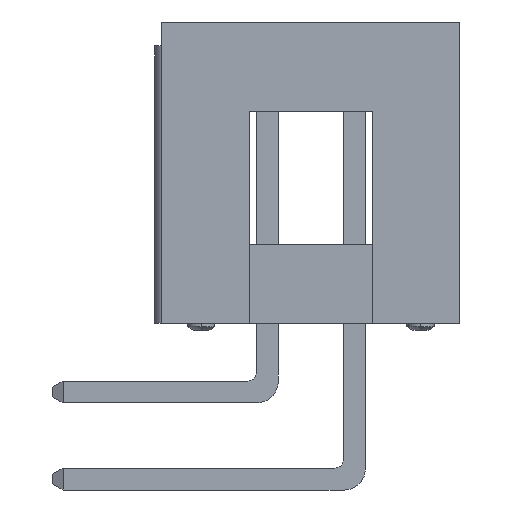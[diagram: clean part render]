
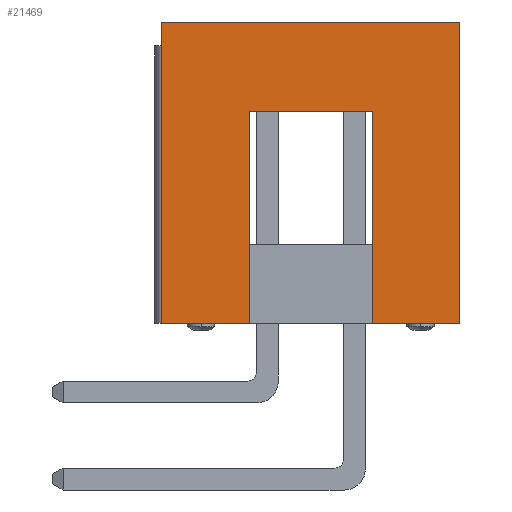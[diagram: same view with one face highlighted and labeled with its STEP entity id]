
A CAD part, left-side view. The second image highlights one B-rep face of the part: STEP entity #21469.
In plain terms, the highlighted planar face has unit normal (-1, 0, 0).
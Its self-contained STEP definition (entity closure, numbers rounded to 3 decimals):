
#804 = VECTOR ( 'NONE', #9290, 1000. ) ;
#1431 = EDGE_CURVE ( 'NONE', #7091, #12977, #4316, .T. ) ;
#1960 = ORIENTED_EDGE ( 'NONE', *, *, #3364, .F. ) ;
#2496 = VERTEX_POINT ( 'NONE', #3464 ) ;
#2845 = DIRECTION ( 'NONE',  ( 0., 0., -1. ) ) ;
#3101 = AXIS2_PLACEMENT_3D ( 'NONE', #12711, #19707, #19592 ) ;
#3364 = EDGE_CURVE ( 'NONE', #20344, #20805, #7205, .T. ) ;
#3464 = CARTESIAN_POINT ( 'NONE',  ( -21.005, 9.341, -6.15 ) ) ;
#3612 = CARTESIAN_POINT ( 'NONE',  ( -21.005, 3.191, -6.15 ) ) ;
#4292 = EDGE_CURVE ( 'NONE', #12977, #15648, #5591, .T. ) ;
#4316 = LINE ( 'NONE', #9374, #15888 ) ;
#4383 = FACE_OUTER_BOUND ( 'NONE', #16092, .T. ) ;
#5083 = LINE ( 'NONE', #17131, #13768 ) ;
#5513 = CARTESIAN_POINT ( 'NONE',  ( -21.005, 9.341, 2.65 ) ) ;
#5591 = LINE ( 'NONE', #12346, #804 ) ;
#5599 = ORIENTED_EDGE ( 'NONE', *, *, #4292, .T. ) ;
#5662 = CARTESIAN_POINT ( 'NONE',  ( -21.005, 9.341, 2.85 ) ) ;
#6103 = LINE ( 'NONE', #5662, #13975 ) ;
#6450 = CARTESIAN_POINT ( 'NONE',  ( -21.005, 6.791, 0.05 ) ) ;
#6939 = EDGE_CURVE ( 'NONE', #2496, #7724, #10004, .T. ) ;
#7091 = VERTEX_POINT ( 'NONE', #14164 ) ;
#7178 = VERTEX_POINT ( 'NONE', #16202 ) ;
#7186 = LINE ( 'NONE', #17542, #10863 ) ;
#7205 = LINE ( 'NONE', #5513, #16863 ) ;
#7401 = DIRECTION ( 'NONE',  ( 0., 1., 0. ) ) ;
#7671 = VECTOR ( 'NONE', #2845, 1000. ) ;
#7724 = VERTEX_POINT ( 'NONE', #15144 ) ;
#9290 = DIRECTION ( 'NONE',  ( 0., -1., 0. ) ) ;
#9374 = CARTESIAN_POINT ( 'NONE',  ( -21.005, 3.191, 0.05 ) ) ;
#10004 = LINE ( 'NONE', #14976, #17826 ) ;
#10490 = ORIENTED_EDGE ( 'NONE', *, *, #18272, .F. ) ;
#10863 = VECTOR ( 'NONE', #7401, 1000. ) ;
#11245 = PLANE ( 'NONE',  #3101 ) ;
#12346 = CARTESIAN_POINT ( 'NONE',  ( -21.005, 9.341, -6.15 ) ) ;
#12673 = EDGE_CURVE ( 'NONE', #20344, #2496, #6103, .T. ) ;
#12711 = CARTESIAN_POINT ( 'NONE',  ( -21.005, 9.341, 2.85 ) ) ;
#12799 = CARTESIAN_POINT ( 'NONE',  ( -21.005, 9.341, 2.65 ) ) ;
#12977 = VERTEX_POINT ( 'NONE', #3612 ) ;
#13208 = CARTESIAN_POINT ( 'NONE',  ( -21.005, 0.641, 2.65 ) ) ;
#13768 = VECTOR ( 'NONE', #15227, 1000. ) ;
#13942 = ORIENTED_EDGE ( 'NONE', *, *, #18735, .F. ) ;
#13953 = DIRECTION ( 'NONE',  ( 0., -1., 0. ) ) ;
#13975 = VECTOR ( 'NONE', #21310, 1000. ) ;
#14164 = CARTESIAN_POINT ( 'NONE',  ( -21.005, 3.191, 0.05 ) ) ;
#14782 = ORIENTED_EDGE ( 'NONE', *, *, #6939, .T. ) ;
#14957 = EDGE_CURVE ( 'NONE', #7091, #7178, #7186, .T. ) ;
#14976 = CARTESIAN_POINT ( 'NONE',  ( -21.005, 9.341, -6.15 ) ) ;
#15144 = CARTESIAN_POINT ( 'NONE',  ( -21.005, 6.791, -6.15 ) ) ;
#15227 = DIRECTION ( 'NONE',  ( 0., 0., -1. ) ) ;
#15648 = VERTEX_POINT ( 'NONE', #18625 ) ;
#15888 = VECTOR ( 'NONE', #19979, 1000. ) ;
#16092 = EDGE_LOOP ( 'NONE', ( #19388, #17698, #5599, #10490, #1960, #19024, #14782, #13942 ) ) ;
#16202 = CARTESIAN_POINT ( 'NONE',  ( -21.005, 6.791, 0.05 ) ) ;
#16863 = VECTOR ( 'NONE', #13953, 1000. ) ;
#17131 = CARTESIAN_POINT ( 'NONE',  ( -21.005, 0.641, 2.85 ) ) ;
#17542 = CARTESIAN_POINT ( 'NONE',  ( -21.005, 6.791, 0.05 ) ) ;
#17698 = ORIENTED_EDGE ( 'NONE', *, *, #1431, .T. ) ;
#17826 = VECTOR ( 'NONE', #22065, 1000. ) ;
#18272 = EDGE_CURVE ( 'NONE', #20805, #15648, #5083, .T. ) ;
#18280 = LINE ( 'NONE', #6450, #7671 ) ;
#18625 = CARTESIAN_POINT ( 'NONE',  ( -21.005, 0.641, -6.15 ) ) ;
#18735 = EDGE_CURVE ( 'NONE', #7178, #7724, #18280, .T. ) ;
#19024 = ORIENTED_EDGE ( 'NONE', *, *, #12673, .T. ) ;
#19388 = ORIENTED_EDGE ( 'NONE', *, *, #14957, .F. ) ;
#19592 = DIRECTION ( 'NONE',  ( 0., 1., 0. ) ) ;
#19707 = DIRECTION ( 'NONE',  ( 1., 0., 0. ) ) ;
#19979 = DIRECTION ( 'NONE',  ( 0., 0., -1. ) ) ;
#20344 = VERTEX_POINT ( 'NONE', #12799 ) ;
#20805 = VERTEX_POINT ( 'NONE', #13208 ) ;
#21310 = DIRECTION ( 'NONE',  ( 0., 0., -1. ) ) ;
#21469 = ADVANCED_FACE ( 'NONE', ( #4383 ), #11245, .F. ) ;
#22065 = DIRECTION ( 'NONE',  ( 0., -1., 0. ) ) ;
